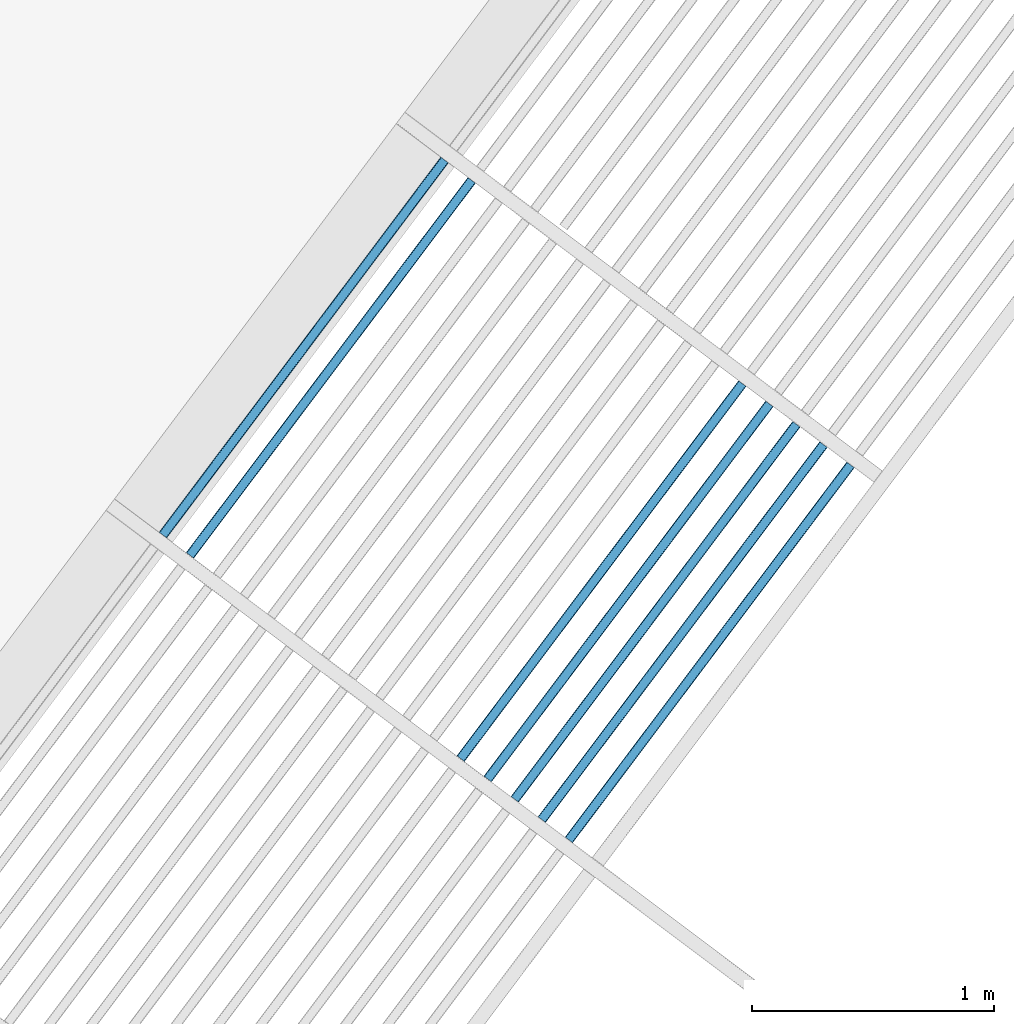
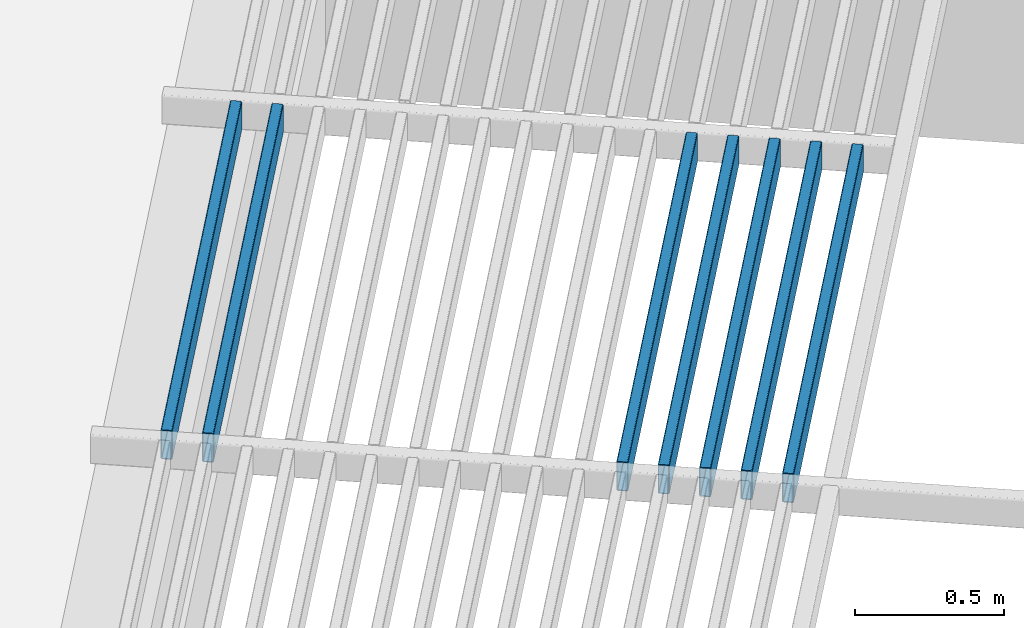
# One storey, part 78 of 95: 7 beams.
"""IFC2X3 building model written with IfcOpenShell, lengths in metres."""

import ifcopenshell
import ifcopenshell.guid

model = None  # the IFC model being written
_history = None  # IfcOwnerHistory: only IFC2X3 demands one
_inside = {}  # id of a spatial element -> (the spatial element, [elements in it])
_under = {}  # id of a project, library or spatial element -> (it, [spatial elements below it])
_declared = {}  # id of a project -> (the project, [libraries it declares])
_typed = {}  # id of a type object -> (the type object, [elements of that type])
_made_of = {}  # id of a material, layer set ... -> (it, [elements and type objects made of it])


def new_model(schema):
    """Start an empty IFC model of exactly this schema.

    Asked for "IFC4X3", IfcOpenShell would pick the latest addendum, in which some entities
    have other attributes; the version numbers below select the first issue.
    IFC2X3 requires an IfcOwnerHistory on every rooted entity: one is made here for all.
    """
    global model, _history
    if schema == "IFC4X3":
        model = ifcopenshell.file(schema_version=(4, 3, 0, 0))
    else:
        model = ifcopenshell.file(schema=schema)
    _inside.clear()
    _under.clear()
    _declared.clear()
    _typed.clear()
    _made_of.clear()
    _history = None
    if model.schema == "IFC2X3":
        org = make("IfcOrganization", Name="unknown")
        user = make(
            "IfcPersonAndOrganization",
            ThePerson=make("IfcPerson", FamilyName="unknown"),
            TheOrganization=org,
        )
        app = make(
            "IfcApplication",
            ApplicationDeveloper=org,
            Version="unknown",
            ApplicationFullName="unknown",
            ApplicationIdentifier="unknown",
        )
        _history = make(
            "IfcOwnerHistory",
            OwningUser=user,
            OwningApplication=app,
            ChangeAction="ADDED",
            CreationDate=0,
        )
    return model


def make(cls, **values):
    """One entity of the class cls with the attributes given. An attribute that is None is left unset."""
    return model.create_entity(
        cls, **{name: value for name, value in values.items() if value is not None}
    )


def entity(cls, *values):
    """Any entity or typed value of the class cls, its attributes in the order of the schema. None: left unset."""
    e = model.create_entity(cls)
    for i, value in enumerate(values):
        if value is not None:
            e[i] = value
    return e


def rooted(cls, **values):
    """An entity with a GlobalId (a new one), such as an element, a storey or a relation."""
    return make(cls, GlobalId=ifcopenshell.guid.new(), OwnerHistory=_history, **values)


def si_unit(unit_type, name, prefix=None):
    """IfcSIUnit, for example si_unit("LENGTHUNIT", "METRE", prefix="MILLI")."""
    return make("IfcSIUnit", UnitType=unit_type, Prefix=prefix, Name=name)


def converted_unit(unit_type, name, factor, base, dimensions=None, offset=None):
    """IfcConversionBasedUnit, such as the inch: factor (a typed value) times the base unit."""
    return make(
        "IfcConversionBasedUnit"
        if offset is None
        else "IfcConversionBasedUnitWithOffset",
        ConversionOffset=offset,
        Dimensions=None
        if dimensions is None
        else entity("IfcDimensionalExponents", *dimensions),
        UnitType=unit_type,
        Name=name,
        ConversionFactor=make(
            "IfcMeasureWithUnit", ValueComponent=factor, UnitComponent=base
        ),
    )


def derived_unit(unit_type, elements):
    """IfcDerivedUnit: a product of units, each with its exponent."""
    return make(
        "IfcDerivedUnit",
        Elements=[
            make("IfcDerivedUnitElement", Unit=unit, Exponent=power)
            for unit, power in elements
        ],
        UnitType=unit_type,
    )


def assignment(units):
    """IfcUnitAssignment: the units of a project."""
    return None if units is None else make("IfcUnitAssignment", Units=units)


def point(xyz):
    """IfcCartesianPoint."""
    return None if xyz is None else make("IfcCartesianPoint", Coordinates=xyz)


def direction(xyz):
    """IfcDirection."""
    return None if xyz is None else make("IfcDirection", DirectionRatios=xyz)


def frame(location, z_axis=None, x_axis=None):
    """IfcAxis2Placement3D, a coordinate frame: its origin and axes. An axis left out is left unset."""
    return make(
        "IfcAxis2Placement3D",
        Location=point(location),
        Axis=direction(z_axis),
        RefDirection=direction(x_axis),
    )


def frame_2d(location, x_axis=None):
    """IfcAxis2Placement2D, a coordinate frame in the plane: its origin and x axis."""
    return make(
        "IfcAxis2Placement2D", Location=point(location), RefDirection=direction(x_axis)
    )


def origin():
    """The frame at (0, 0, 0) with its axes left unset."""
    return frame((0.0, 0.0, 0.0))


def place(relative_to, where):
    """IfcLocalPlacement: puts the frame where relative to a parent placement (None: the world)."""
    return make(
        "IfcLocalPlacement", PlacementRelTo=relative_to, RelativePlacement=where
    )


def context(
    kind, dimensions, precision=None, world=None, true_north=None, identifier=None
):
    """IfcGeometricRepresentationContext, for example the 3D "Model" context."""
    return make(
        "IfcGeometricRepresentationContext",
        ContextIdentifier=identifier,
        ContextType=kind,
        CoordinateSpaceDimension=dimensions,
        Precision=precision,
        WorldCoordinateSystem=world,
        TrueNorth=true_north,
    )


def subcontext(parent, identifier, kind, view, scale=None):
    """IfcGeometricRepresentationSubContext, for example "Body" below "Model"."""
    return make(
        "IfcGeometricRepresentationSubContext",
        ContextIdentifier=identifier,
        ContextType=kind,
        ParentContext=parent,
        TargetScale=scale,
        TargetView=view,
    )


def project(units=None, contexts=None):
    """IfcProject with its units and contexts."""
    return rooted(
        "IfcProject",
        Name="project",
        RepresentationContexts=contexts,
        UnitsInContext=assignment(units),
    )


def spatial(cls, under=None, at=None, **own):
    """A site, building, storey or space (cls), placed at a placement, below another one or the project."""
    s = rooted(cls, ObjectPlacement=at, **own)
    if under is not None:
        _under.setdefault(under.id(), (under, []))[1].append(s)
    return s


def polyline(points):
    """IfcPolyline through the points."""
    return make("IfcPolyline", Points=[point(p) for p in points])


def circle_curve(where, radius):
    """IfcCircle in the frame where."""
    return make("IfcCircle", Position=where, Radius=radius)


def parameter(value):
    """IfcParameterValue: where a trimmed curve begins or ends, as a parameter of its basis curve."""
    return model.create_entity("IfcParameterValue", value)


def trimmed(basis, trim1, trim2, sense, master):
    """IfcTrimmedCurve: the piece of a basis curve between two trims."""
    return make(
        "IfcTrimmedCurve",
        BasisCurve=basis,
        Trim1=trim1,
        Trim2=trim2,
        SenseAgreement=sense,
        MasterRepresentation=master,
    )


def segment(curve, same_sense, transition):
    """IfcCompositeCurveSegment."""
    return make(
        "IfcCompositeCurveSegment",
        Transition=transition,
        SameSense=same_sense,
        ParentCurve=curve,
    )


def composite_curve(segments, self_intersect=None):
    """IfcCompositeCurve: segments joined end to end."""
    return make("IfcCompositeCurve", Segments=segments, SelfIntersect=self_intersect)


def outline(outer, holes=None, kind="AREA"):
    """IfcArbitraryClosedProfileDef: a profile drawn as a closed curve; with holes, ...WithVoids."""
    if holes is None:
        return make("IfcArbitraryClosedProfileDef", ProfileType=kind, OuterCurve=outer)
    return make(
        "IfcArbitraryProfileDefWithVoids",
        ProfileType=kind,
        OuterCurve=outer,
        InnerCurves=holes,
    )


def extrude(swept, where, along, depth):
    """IfcExtrudedAreaSolid: the profile swept, set in the frame where, extruded along a direction by depth."""
    return make(
        "IfcExtrudedAreaSolid",
        SweptArea=swept,
        Position=where,
        ExtrudedDirection=direction(along),
        Depth=depth,
    )


def shape(context_of_items, identifier, shape_type, items):
    """IfcShapeRepresentation: the items that make up one representation, for example the "Body"."""
    return make(
        "IfcShapeRepresentation",
        ContextOfItems=context_of_items,
        RepresentationIdentifier=identifier,
        RepresentationType=shape_type,
        Items=items,
    )


def material(Name=None, Category=None):
    """IfcMaterial."""
    return make("IfcMaterial", Name=Name, Category=Category)


def made_of(thing, what):
    """Note that an element or type object is made of a material, layer set ...; save() writes the relation."""
    if what is not None:
        _made_of.setdefault(what.id(), (what, []))[1].append(thing)
    return thing


def type_object(cls, material=None, **own):
    """A type object (cls), such as IfcWallType, which elements share."""
    return made_of(rooted(cls, **own), material)


def element(
    cls,
    number,
    at=None,
    inside=None,
    cuts=None,
    type_object=None,
    material=None,
    context=None,
    identifier="Body",
    shape_type=None,
    held_by="IfcProductDefinitionShape",
    body=None,
    shapes=None,
    **own,
):
    """One element of the class cls, such as IfcWall. Its Tag is "e" and its number.

    at: its placement. inside: the storey or other place that contains it. cuts: it is an
    opening in that element (IfcRelVoidsElement). A single representation is given by context,
    identifier, shape_type and body (its items); several are given by shapes. held_by: the class
    of the entity that holds the representations. save() writes the other relations.
    """
    e = rooted(cls, Tag="e%d" % number, ObjectPlacement=at, **own)
    if body is not None:
        shapes = [shape(context, identifier, shape_type, body)]
    if shapes is not None:
        e.Representation = make(held_by, Representations=shapes)
    if inside is not None:
        _inside.setdefault(inside.id(), (inside, []))[1].append(e)
    if cuts is not None:
        rooted(
            "IfcRelVoidsElement", RelatingBuildingElement=cuts, RelatedOpeningElement=e
        )
    if type_object is not None:
        _typed.setdefault(type_object.id(), (type_object, []))[1].append(e)
    return made_of(e, material)


def aggregate(whole, parts):
    """IfcRelAggregates: a whole, such as a stair, and the parts it consists of."""
    return rooted("IfcRelAggregates", RelatingObject=whole, RelatedObjects=parts)


def save(model, path):
    """Write the relations noted so far, then the file.

    IfcRelAggregates (storeys below a building ...), IfcRelContainedInSpatialStructure (elements
    in a storey), IfcRelDefinesByType, IfcRelAssociatesMaterial and IfcRelDeclares: one each for
    every whole, place, type object, material and project.
    """
    for whole, parts in _under.values():
        aggregate(whole, parts)
    for where, things in _inside.values():
        rooted(
            "IfcRelContainedInSpatialStructure",
            RelatedElements=things,
            RelatingStructure=where,
        )
    for kind, things in _typed.values():
        rooted("IfcRelDefinesByType", RelatedObjects=things, RelatingType=kind)
    for what, things in _made_of.values():
        rooted("IfcRelAssociatesMaterial", RelatedObjects=things, RelatingMaterial=what)
    for by, libraries in _declared.values():
        rooted("IfcRelDeclares", RelatingContext=by, RelatedDefinitions=libraries)
    model.write(path)


model = new_model("IFC2X3")

# Units and contexts
model_context = context("Model", 3, precision=1e-05, world=origin(), true_north=direction((6.123031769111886e-17, 1.0)))
body_context = subcontext(model_context, "Body", "Model", "MODEL_VIEW")
ifc_project = project(units=[si_unit("LENGTHUNIT", "METRE"), si_unit("AREAUNIT", "SQUARE_METRE"), si_unit("VOLUMEUNIT", "CUBIC_METRE"), converted_unit("PLANEANGLEUNIT", "DEGREE", entity("IfcRatioMeasure", 0.017453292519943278), si_unit("PLANEANGLEUNIT", "RADIAN"), dimensions=[0, 0, 0, 0, 0, 0, 0]), si_unit("MASSUNIT", "GRAM", prefix="KILO"), derived_unit("MASSDENSITYUNIT", [(si_unit("MASSUNIT", "GRAM", prefix="KILO"), 1), (si_unit("LENGTHUNIT", "METRE"), -3)]), derived_unit("IONCONCENTRATIONUNIT", [(si_unit("MASSUNIT", "GRAM", prefix="KILO"), 1), (si_unit("LENGTHUNIT", "METRE"), -3)]), derived_unit("MOMENTOFINERTIAUNIT", [(si_unit("LENGTHUNIT", "METRE"), 4)]), si_unit("TIMEUNIT", "SECOND"), si_unit("FREQUENCYUNIT", "HERTZ"), si_unit("THERMODYNAMICTEMPERATUREUNIT", "DEGREE_CELSIUS"), derived_unit("THERMALTRANSMITTANCEUNIT", [(si_unit("MASSUNIT", "GRAM", prefix="KILO"), 1), (si_unit("THERMODYNAMICTEMPERATUREUNIT", "KELVIN"), -1), (si_unit("TIMEUNIT", "SECOND"), -3)]), derived_unit("THERMALCONDUCTANCEUNIT", [(si_unit("MASSUNIT", "GRAM", prefix="KILO"), 1), (si_unit("THERMODYNAMICTEMPERATUREUNIT", "KELVIN"), -1), (si_unit("TIMEUNIT", "SECOND"), -3), (si_unit("LENGTHUNIT", "METRE"), 1)]), derived_unit("VOLUMETRICFLOWRATEUNIT", [(si_unit("LENGTHUNIT", "METRE"), 3), (si_unit("TIMEUNIT", "SECOND"), -1)]), derived_unit("MASSFLOWRATEUNIT", [(si_unit("MASSUNIT", "GRAM", prefix="KILO"), 1), (si_unit("TIMEUNIT", "SECOND"), -1)]), derived_unit("ROTATIONALFREQUENCYUNIT", [(si_unit("TIMEUNIT", "SECOND"), -1)]), si_unit("ELECTRICCURRENTUNIT", "AMPERE"), si_unit("ELECTRICVOLTAGEUNIT", "VOLT"), si_unit("POWERUNIT", "WATT"), si_unit("FORCEUNIT", "NEWTON", prefix="KILO"), si_unit("ILLUMINANCEUNIT", "LUX"), si_unit("LUMINOUSFLUXUNIT", "LUMEN"), si_unit("LUMINOUSINTENSITYUNIT", "CANDELA"), derived_unit("USERDEFINED", [(si_unit("MASSUNIT", "GRAM", prefix="KILO"), -1), (si_unit("LENGTHUNIT", "METRE"), -2), (si_unit("TIMEUNIT", "SECOND"), 3), (si_unit("LUMINOUSFLUXUNIT", "LUMEN"), 1)]), derived_unit("USERDEFINED", [(si_unit("MASSUNIT", "GRAM", prefix="KILO"), 1), (si_unit("TIMEUNIT", "SECOND"), -3), (si_unit("LENGTHUNIT", "METRE"), 3), (si_unit("ELECTRICCURRENTUNIT", "AMPERE"), -2)]), derived_unit("SOUNDPOWERUNIT", [(si_unit("MASSUNIT", "GRAM", prefix="KILO"), 1), (si_unit("TIMEUNIT", "SECOND"), -3), (si_unit("LENGTHUNIT", "METRE"), 2)]), derived_unit("SOUNDPRESSUREUNIT", [(si_unit("MASSUNIT", "GRAM", prefix="KILO"), 1), (si_unit("LENGTHUNIT", "METRE"), -1), (si_unit("TIMEUNIT", "SECOND"), -2)]), derived_unit("LINEARVELOCITYUNIT", [(si_unit("LENGTHUNIT", "METRE"), 1), (si_unit("TIMEUNIT", "SECOND"), -1)]), si_unit("PRESSUREUNIT", "PASCAL"), derived_unit("USERDEFINED", [(si_unit("MASSUNIT", "GRAM", prefix="KILO"), 1), (si_unit("LENGTHUNIT", "METRE"), -2), (si_unit("TIMEUNIT", "SECOND"), -2)]), derived_unit("LINEARFORCEUNIT", [(si_unit("MASSUNIT", "GRAM", prefix="KILO"), 1), (si_unit("TIMEUNIT", "SECOND"), -2)]), derived_unit("PLANARFORCEUNIT", [(si_unit("MASSUNIT", "GRAM", prefix="KILO"), 1), (si_unit("LENGTHUNIT", "METRE"), -1), (si_unit("TIMEUNIT", "SECOND"), -2)]), derived_unit("SPECIFICHEATCAPACITYUNIT", [(si_unit("THERMODYNAMICTEMPERATUREUNIT", "KELVIN"), -1), (si_unit("LENGTHUNIT", "METRE"), 2), (si_unit("TIMEUNIT", "SECOND"), -2)]), derived_unit("HEATINGVALUEUNIT", [(si_unit("LENGTHUNIT", "METRE"), 2), (si_unit("TIMEUNIT", "SECOND"), -2)]), derived_unit("VAPORPERMEABILITYUNIT", [(si_unit("LENGTHUNIT", "METRE"), -1), (si_unit("TIMEUNIT", "SECOND"), 1)]), derived_unit("DYNAMICVISCOSITYUNIT", [(si_unit("MASSUNIT", "GRAM", prefix="KILO"), 1), (si_unit("TIMEUNIT", "SECOND"), -1), (si_unit("LENGTHUNIT", "METRE"), -1)]), derived_unit("THERMALEXPANSIONCOEFFICIENTUNIT", [(si_unit("THERMODYNAMICTEMPERATUREUNIT", "KELVIN"), -1)]), derived_unit("MODULUSOFELASTICITYUNIT", [(si_unit("MASSUNIT", "GRAM", prefix="KILO"), 1), (si_unit("LENGTHUNIT", "METRE"), -1), (si_unit("TIMEUNIT", "SECOND"), -2)]), derived_unit("ISOTHERMALMOISTURECAPACITYUNIT", [(si_unit("LENGTHUNIT", "METRE"), 3), (si_unit("MASSUNIT", "GRAM", prefix="KILO"), -1)]), derived_unit("MOISTUREDIFFUSIVITYUNIT", [(si_unit("TIMEUNIT", "SECOND"), -1), (si_unit("LENGTHUNIT", "METRE"), 2)])], contexts=[model_context])

# Site, building, storey
site_placement = place(None, origin())
site = spatial("IfcSite", under=ifc_project, at=site_placement, Name="Default", CompositionType="ELEMENT")
building_placement = place(site_placement, frame((0.0, 0.0, 235.0), z_axis=(0.0, 0.0, 1.0), x_axis=(-0.7996477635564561, 0.6004693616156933, 0.0)))
building = spatial("IfcBuilding", under=site, at=building_placement, CompositionType="ELEMENT")
storey_placement = place(building_placement, frame((0.0, 0.0, 3.400000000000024)))
storey = spatial("IfcBuildingStorey", under=building, at=storey_placement, Name="PC- Coberta STR", CompositionType="ELEMENT", Elevation=3.400000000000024)

# Beams
ifc_material = material(Name="_Acer- STR")
beam_type = type_object("IfcBeamType", Name="STR- V- Acer- RHS- Rectangular- T1:120x40RHS -", PredefinedType="NOTDEFINED")
beam_1_placement = place(storey_placement, frame((53.773552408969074, -34.38519175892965, 0.4984047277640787), z_axis=(0.0, 0.0, 1.0), x_axis=(0.0, -1.0, 0.0)))
element("IfcBeam", 1, at=beam_1_placement, inside=storey, type_object=beam_type, material=ifc_material, Name="STR- V- Acer- RHS- Rectangular- T1:120x40RHS -", ObjectType="STR- V- Acer- RHS- Rectangular- T1:120x40RHS -", context=body_context, shape_type="SweptSolid", body=[
    extrude(outline(composite_curve([segment(trimmed(circle_curve(frame_2d((-0.01400000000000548, -0.053999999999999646), x_axis=(1.0, 0.0)), 0.006), [parameter(180.0000000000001)], [parameter(269.99999999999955)], True, "PARAMETER"), True, "CONTINUOUS"), segment(polyline([(-0.01400000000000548, -0.0599999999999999), (0.013999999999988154, -0.0599999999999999)]), True, "CONTINUOUS"), segment(trimmed(circle_curve(frame_2d((0.013999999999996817, -0.053999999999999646), x_axis=(1.0, 0.0)), 0.006), [parameter(269.99999999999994)], [parameter(1.0177774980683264e-13)], True, "PARAMETER"), True, "CONTINUOUS"), segment(polyline([(0.019999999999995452, -0.053999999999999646), (0.019999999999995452, 0.05400000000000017)]), True, "CONTINUOUS"), segment(trimmed(circle_curve(frame_2d((0.013999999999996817, 0.05400000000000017), x_axis=(1.0, 0.0)), 0.006), [parameter(359.9999999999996)], [parameter(89.99999999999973)], True, "PARAMETER"), True, "CONTINUOUS"), segment(polyline([(0.013999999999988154, 0.059999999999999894), (-0.01400000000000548, 0.059999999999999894)]), True, "CONTINUOUS"), segment(trimmed(circle_curve(frame_2d((-0.01400000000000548, 0.05400000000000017), x_axis=(1.0, 0.0)), 0.006), [parameter(90.00000000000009)], [parameter(180.00000000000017)], True, "PARAMETER"), True, "CONTINUOUS"), segment(polyline([(-0.02000000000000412, 0.05400000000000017), (-0.02000000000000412, -0.05400000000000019)]), True, "CONTINUOUS")], self_intersect=False), holes=[composite_curve([segment(polyline([(0.013999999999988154, -0.05700000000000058), (-0.01400000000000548, -0.05700000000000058)]), True, "CONTINUOUS"), segment(trimmed(circle_curve(frame_2d((-0.01400000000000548, -0.05400000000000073), x_axis=(1.0, 0.0)), 0.003), [parameter(179.99999999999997)], [parameter(269.9999999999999)], True, "PARAMETER"), False, "CONTINUOUS"), segment(polyline([(-0.017000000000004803, -0.05400000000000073), (-0.017000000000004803, 0.05399999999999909)]), True, "CONTINUOUS"), segment(trimmed(circle_curve(frame_2d((-0.01400000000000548, 0.05399999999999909), x_axis=(1.0, 0.0)), 0.003), [parameter(90.00000000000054)], [parameter(180.0000000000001)], True, "PARAMETER"), False, "CONTINUOUS"), segment(polyline([(-0.01400000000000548, 0.056999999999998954), (0.013999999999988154, 0.056999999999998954)]), True, "CONTINUOUS"), segment(trimmed(circle_curve(frame_2d((0.013999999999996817, 0.05399999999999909), x_axis=(1.0, 0.0)), 0.003), [parameter(0.0)], [parameter(90.00000000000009)], True, "PARAMETER"), False, "CONTINUOUS"), segment(polyline([(0.016999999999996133, 0.05399999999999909), (0.016999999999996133, -0.05400000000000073)]), True, "CONTINUOUS"), segment(trimmed(circle_curve(frame_2d((0.013999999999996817, -0.05400000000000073), x_axis=(1.0, 0.0)), 0.003), [parameter(270.00000000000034)], [parameter(3.053332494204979e-13)], True, "PARAMETER"), False, "CONTINUOUS")], self_intersect=False)]), frame((-1.9399999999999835, 0.02159527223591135, 0.06159527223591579), z_axis=(1.0, 0.0, 0.0), x_axis=(0.0, -1.0, 0.0)), (0.0, 0.0, 1.0), 1.9399999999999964),
])
beam_2_placement = place(storey_placement, frame((53.63355240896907, -34.38519175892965, 0.4984047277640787), z_axis=(0.0, 0.0, 1.0), x_axis=(0.0, -1.0, 0.0)))
element("IfcBeam", 2, at=beam_2_placement, inside=storey, type_object=beam_type, material=ifc_material, Name="STR- V- Acer- RHS- Rectangular- T1:120x40RHS -", ObjectType="STR- V- Acer- RHS- Rectangular- T1:120x40RHS -", context=body_context, shape_type="SweptSolid", body=[
    extrude(outline(composite_curve([segment(trimmed(circle_curve(frame_2d((-0.01400000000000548, -0.053999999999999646), x_axis=(1.0, 0.0)), 0.006), [parameter(180.0000000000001)], [parameter(269.99999999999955)], True, "PARAMETER"), True, "CONTINUOUS"), segment(polyline([(-0.01400000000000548, -0.0599999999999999), (0.013999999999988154, -0.0599999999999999)]), True, "CONTINUOUS"), segment(trimmed(circle_curve(frame_2d((0.013999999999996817, -0.053999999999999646), x_axis=(1.0, 0.0)), 0.006), [parameter(269.99999999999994)], [parameter(1.0177774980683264e-13)], True, "PARAMETER"), True, "CONTINUOUS"), segment(polyline([(0.019999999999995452, -0.053999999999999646), (0.019999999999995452, 0.05400000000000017)]), True, "CONTINUOUS"), segment(trimmed(circle_curve(frame_2d((0.013999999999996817, 0.05400000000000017), x_axis=(1.0, 0.0)), 0.006), [parameter(359.9999999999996)], [parameter(89.99999999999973)], True, "PARAMETER"), True, "CONTINUOUS"), segment(polyline([(0.013999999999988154, 0.059999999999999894), (-0.01400000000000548, 0.059999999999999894)]), True, "CONTINUOUS"), segment(trimmed(circle_curve(frame_2d((-0.01400000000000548, 0.05400000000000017), x_axis=(1.0, 0.0)), 0.006), [parameter(90.00000000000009)], [parameter(180.00000000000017)], True, "PARAMETER"), True, "CONTINUOUS"), segment(polyline([(-0.02000000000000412, 0.05400000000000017), (-0.02000000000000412, -0.05400000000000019)]), True, "CONTINUOUS")], self_intersect=False), holes=[composite_curve([segment(polyline([(0.013999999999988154, -0.05700000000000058), (-0.01400000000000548, -0.05700000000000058)]), True, "CONTINUOUS"), segment(trimmed(circle_curve(frame_2d((-0.01400000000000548, -0.05400000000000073), x_axis=(1.0, 0.0)), 0.003), [parameter(179.99999999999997)], [parameter(269.9999999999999)], True, "PARAMETER"), False, "CONTINUOUS"), segment(polyline([(-0.017000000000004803, -0.05400000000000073), (-0.017000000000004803, 0.05399999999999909)]), True, "CONTINUOUS"), segment(trimmed(circle_curve(frame_2d((-0.01400000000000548, 0.05399999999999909), x_axis=(1.0, 0.0)), 0.003), [parameter(90.00000000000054)], [parameter(180.0000000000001)], True, "PARAMETER"), False, "CONTINUOUS"), segment(polyline([(-0.01400000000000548, 0.056999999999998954), (0.013999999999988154, 0.056999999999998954)]), True, "CONTINUOUS"), segment(trimmed(circle_curve(frame_2d((0.013999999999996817, 0.05399999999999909), x_axis=(1.0, 0.0)), 0.003), [parameter(0.0)], [parameter(90.00000000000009)], True, "PARAMETER"), False, "CONTINUOUS"), segment(polyline([(0.016999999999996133, 0.05399999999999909), (0.016999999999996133, -0.05400000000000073)]), True, "CONTINUOUS"), segment(trimmed(circle_curve(frame_2d((0.013999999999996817, -0.05400000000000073), x_axis=(1.0, 0.0)), 0.003), [parameter(270.00000000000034)], [parameter(3.053332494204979e-13)], True, "PARAMETER"), False, "CONTINUOUS")], self_intersect=False)]), frame((-1.9399999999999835, 0.02159527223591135, 0.06159527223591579), z_axis=(1.0, 0.0, 0.0), x_axis=(0.0, -1.0, 0.0)), (0.0, 0.0, 1.0), 1.9399999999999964),
])
beam_3_placement = place(storey_placement, frame((52.233552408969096, -34.38519175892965, 0.4984047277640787), z_axis=(0.0, 0.0, 1.0), x_axis=(0.0, -1.0, 0.0)))
element("IfcBeam", 3, at=beam_3_placement, inside=storey, type_object=beam_type, material=ifc_material, Name="STR- V- Acer- RHS- Rectangular- T1:120x40RHS -", ObjectType="STR- V- Acer- RHS- Rectangular- T1:120x40RHS -", context=body_context, shape_type="SweptSolid", body=[
    extrude(outline(composite_curve([segment(trimmed(circle_curve(frame_2d((-0.01399999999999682, -0.053999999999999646), x_axis=(1.0, 0.0)), 0.006), [parameter(180.0000000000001)], [parameter(269.99999999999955)], True, "PARAMETER"), True, "CONTINUOUS"), segment(polyline([(-0.01399999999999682, -0.0599999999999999), (0.013999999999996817, -0.0599999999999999)]), True, "CONTINUOUS"), segment(trimmed(circle_curve(frame_2d((0.014000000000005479, -0.053999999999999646), x_axis=(1.0, 0.0)), 0.006), [parameter(269.99999999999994)], [parameter(1.0177774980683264e-13)], True, "PARAMETER"), True, "CONTINUOUS"), segment(polyline([(0.020000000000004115, -0.053999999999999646), (0.020000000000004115, 0.05400000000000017)]), True, "CONTINUOUS"), segment(trimmed(circle_curve(frame_2d((0.014000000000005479, 0.05400000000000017), x_axis=(1.0, 0.0)), 0.006), [parameter(359.9999999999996)], [parameter(89.99999999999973)], True, "PARAMETER"), True, "CONTINUOUS"), segment(polyline([(0.013999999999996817, 0.059999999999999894), (-0.01399999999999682, 0.059999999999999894)]), True, "CONTINUOUS"), segment(trimmed(circle_curve(frame_2d((-0.01399999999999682, 0.05400000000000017), x_axis=(1.0, 0.0)), 0.006), [parameter(90.00000000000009)], [parameter(180.00000000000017)], True, "PARAMETER"), True, "CONTINUOUS"), segment(polyline([(-0.019999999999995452, 0.05400000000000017), (-0.019999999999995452, -0.05400000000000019)]), True, "CONTINUOUS")], self_intersect=False), holes=[composite_curve([segment(polyline([(0.013999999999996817, -0.05700000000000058), (-0.01399999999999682, -0.05700000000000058)]), True, "CONTINUOUS"), segment(trimmed(circle_curve(frame_2d((-0.01399999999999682, -0.05400000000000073), x_axis=(1.0, 0.0)), 0.003), [parameter(179.99999999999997)], [parameter(269.9999999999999)], True, "PARAMETER"), False, "CONTINUOUS"), segment(polyline([(-0.016999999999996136, -0.05400000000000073), (-0.016999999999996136, 0.05399999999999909)]), True, "CONTINUOUS"), segment(trimmed(circle_curve(frame_2d((-0.01399999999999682, 0.05399999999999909), x_axis=(1.0, 0.0)), 0.003), [parameter(90.00000000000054)], [parameter(180.0000000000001)], True, "PARAMETER"), False, "CONTINUOUS"), segment(polyline([(-0.01399999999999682, 0.056999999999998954), (0.013999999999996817, 0.056999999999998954)]), True, "CONTINUOUS"), segment(trimmed(circle_curve(frame_2d((0.014000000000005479, 0.05399999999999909), x_axis=(1.0, 0.0)), 0.003), [parameter(0.0)], [parameter(90.00000000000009)], True, "PARAMETER"), False, "CONTINUOUS"), segment(polyline([(0.017000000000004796, 0.05399999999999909), (0.017000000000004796, -0.05400000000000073)]), True, "CONTINUOUS"), segment(trimmed(circle_curve(frame_2d((0.014000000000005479, -0.05400000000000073), x_axis=(1.0, 0.0)), 0.003), [parameter(270.00000000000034)], [parameter(3.053332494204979e-13)], True, "PARAMETER"), False, "CONTINUOUS")], self_intersect=False)]), frame((-1.9399999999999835, 0.02159527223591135, 0.06159527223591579), z_axis=(1.0, 0.0, 0.0), x_axis=(0.0, -1.0, 0.0)), (0.0, 0.0, 1.0), 1.9399999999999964),
])
beam_4_placement = place(storey_placement, frame((52.09355240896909, -34.38519175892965, 0.4984047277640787), z_axis=(0.0, 0.0, 1.0), x_axis=(0.0, -1.0, 0.0)))
element("IfcBeam", 4, at=beam_4_placement, inside=storey, type_object=beam_type, material=ifc_material, Name="STR- V- Acer- RHS- Rectangular- T1:120x40RHS -", ObjectType="STR- V- Acer- RHS- Rectangular- T1:120x40RHS -", context=body_context, shape_type="SweptSolid", body=[
    extrude(outline(composite_curve([segment(trimmed(circle_curve(frame_2d((-0.013999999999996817, -0.053999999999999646), x_axis=(1.0, 0.0)), 0.006), [parameter(180.0000000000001)], [parameter(269.99999999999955)], True, "PARAMETER"), True, "CONTINUOUS"), segment(polyline([(-0.013999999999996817, -0.0599999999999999), (0.013999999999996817, -0.0599999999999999)]), True, "CONTINUOUS"), segment(trimmed(circle_curve(frame_2d((0.01400000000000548, -0.053999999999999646), x_axis=(1.0, 0.0)), 0.006), [parameter(269.99999999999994)], [parameter(1.0177774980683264e-13)], True, "PARAMETER"), True, "CONTINUOUS"), segment(polyline([(0.020000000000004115, -0.053999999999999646), (0.020000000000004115, 0.05400000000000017)]), True, "CONTINUOUS"), segment(trimmed(circle_curve(frame_2d((0.01400000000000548, 0.05400000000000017), x_axis=(1.0, 0.0)), 0.006), [parameter(359.9999999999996)], [parameter(89.99999999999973)], True, "PARAMETER"), True, "CONTINUOUS"), segment(polyline([(0.013999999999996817, 0.059999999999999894), (-0.013999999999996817, 0.059999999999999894)]), True, "CONTINUOUS"), segment(trimmed(circle_curve(frame_2d((-0.013999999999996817, 0.05400000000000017), x_axis=(1.0, 0.0)), 0.006), [parameter(90.00000000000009)], [parameter(180.00000000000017)], True, "PARAMETER"), True, "CONTINUOUS"), segment(polyline([(-0.019999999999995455, 0.05400000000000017), (-0.019999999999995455, -0.05400000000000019)]), True, "CONTINUOUS")], self_intersect=False), holes=[composite_curve([segment(polyline([(0.013999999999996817, -0.05700000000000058), (-0.013999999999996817, -0.05700000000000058)]), True, "CONTINUOUS"), segment(trimmed(circle_curve(frame_2d((-0.013999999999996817, -0.05400000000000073), x_axis=(1.0, 0.0)), 0.003), [parameter(179.99999999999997)], [parameter(269.9999999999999)], True, "PARAMETER"), False, "CONTINUOUS"), segment(polyline([(-0.01699999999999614, -0.05400000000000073), (-0.01699999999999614, 0.05399999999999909)]), True, "CONTINUOUS"), segment(trimmed(circle_curve(frame_2d((-0.013999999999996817, 0.05399999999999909), x_axis=(1.0, 0.0)), 0.003), [parameter(90.00000000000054)], [parameter(180.0000000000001)], True, "PARAMETER"), False, "CONTINUOUS"), segment(polyline([(-0.013999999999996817, 0.056999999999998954), (0.013999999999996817, 0.056999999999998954)]), True, "CONTINUOUS"), segment(trimmed(circle_curve(frame_2d((0.01400000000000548, 0.05399999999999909), x_axis=(1.0, 0.0)), 0.003), [parameter(0.0)], [parameter(90.00000000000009)], True, "PARAMETER"), False, "CONTINUOUS"), segment(polyline([(0.017000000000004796, 0.05399999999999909), (0.017000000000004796, -0.05400000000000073)]), True, "CONTINUOUS"), segment(trimmed(circle_curve(frame_2d((0.01400000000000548, -0.05400000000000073), x_axis=(1.0, 0.0)), 0.003), [parameter(270.00000000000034)], [parameter(3.053332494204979e-13)], True, "PARAMETER"), False, "CONTINUOUS")], self_intersect=False)]), frame((-1.9399999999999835, 0.021595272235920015, 0.06159527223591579), z_axis=(1.0, 0.0, 0.0), x_axis=(0.0, -1.0, 0.0)), (0.0, 0.0, 1.0), 1.9399999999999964),
])
beam_5_placement = place(storey_placement, frame((51.95355240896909, -34.38519175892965, 0.4984047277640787), z_axis=(0.0, 0.0, 1.0), x_axis=(0.0, -1.0, 0.0)))
element("IfcBeam", 5, at=beam_5_placement, inside=storey, type_object=beam_type, material=ifc_material, Name="STR- V- Acer- RHS- Rectangular- T1:120x40RHS -", ObjectType="STR- V- Acer- RHS- Rectangular- T1:120x40RHS -", context=body_context, shape_type="SweptSolid", body=[
    extrude(outline(composite_curve([segment(trimmed(circle_curve(frame_2d((-0.013999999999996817, -0.053999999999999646), x_axis=(1.0, 0.0)), 0.006), [parameter(180.0000000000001)], [parameter(269.99999999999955)], True, "PARAMETER"), True, "CONTINUOUS"), segment(polyline([(-0.013999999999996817, -0.0599999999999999), (0.013999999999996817, -0.0599999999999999)]), True, "CONTINUOUS"), segment(trimmed(circle_curve(frame_2d((0.01400000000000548, -0.053999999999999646), x_axis=(1.0, 0.0)), 0.006), [parameter(269.99999999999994)], [parameter(1.0177774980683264e-13)], True, "PARAMETER"), True, "CONTINUOUS"), segment(polyline([(0.020000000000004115, -0.053999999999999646), (0.020000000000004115, 0.05400000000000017)]), True, "CONTINUOUS"), segment(trimmed(circle_curve(frame_2d((0.01400000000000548, 0.05400000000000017), x_axis=(1.0, 0.0)), 0.006), [parameter(359.9999999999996)], [parameter(89.99999999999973)], True, "PARAMETER"), True, "CONTINUOUS"), segment(polyline([(0.013999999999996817, 0.059999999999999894), (-0.013999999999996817, 0.059999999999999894)]), True, "CONTINUOUS"), segment(trimmed(circle_curve(frame_2d((-0.013999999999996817, 0.05400000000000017), x_axis=(1.0, 0.0)), 0.006), [parameter(90.00000000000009)], [parameter(180.00000000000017)], True, "PARAMETER"), True, "CONTINUOUS"), segment(polyline([(-0.019999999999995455, 0.05400000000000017), (-0.019999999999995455, -0.05400000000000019)]), True, "CONTINUOUS")], self_intersect=False), holes=[composite_curve([segment(polyline([(0.013999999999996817, -0.05700000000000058), (-0.013999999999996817, -0.05700000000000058)]), True, "CONTINUOUS"), segment(trimmed(circle_curve(frame_2d((-0.013999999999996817, -0.05400000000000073), x_axis=(1.0, 0.0)), 0.003), [parameter(179.99999999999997)], [parameter(269.9999999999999)], True, "PARAMETER"), False, "CONTINUOUS"), segment(polyline([(-0.01699999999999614, -0.05400000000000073), (-0.01699999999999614, 0.05399999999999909)]), True, "CONTINUOUS"), segment(trimmed(circle_curve(frame_2d((-0.013999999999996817, 0.05399999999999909), x_axis=(1.0, 0.0)), 0.003), [parameter(90.00000000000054)], [parameter(180.0000000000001)], True, "PARAMETER"), False, "CONTINUOUS"), segment(polyline([(-0.013999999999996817, 0.056999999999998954), (0.013999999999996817, 0.056999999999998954)]), True, "CONTINUOUS"), segment(trimmed(circle_curve(frame_2d((0.01400000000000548, 0.05399999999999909), x_axis=(1.0, 0.0)), 0.003), [parameter(0.0)], [parameter(90.00000000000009)], True, "PARAMETER"), False, "CONTINUOUS"), segment(polyline([(0.017000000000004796, 0.05399999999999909), (0.017000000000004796, -0.05400000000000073)]), True, "CONTINUOUS"), segment(trimmed(circle_curve(frame_2d((0.01400000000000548, -0.05400000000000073), x_axis=(1.0, 0.0)), 0.003), [parameter(270.00000000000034)], [parameter(3.053332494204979e-13)], True, "PARAMETER"), False, "CONTINUOUS")], self_intersect=False)]), frame((-1.9399999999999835, 0.021595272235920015, 0.06159527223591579), z_axis=(1.0, 0.0, 0.0), x_axis=(0.0, -1.0, 0.0)), (0.0, 0.0, 1.0), 1.9399999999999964),
])
beam_6_placement = place(storey_placement, frame((51.81355240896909, -34.38519175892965, 0.4984047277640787), z_axis=(0.0, 0.0, 1.0), x_axis=(0.0, -1.0, 0.0)))
element("IfcBeam", 6, at=beam_6_placement, inside=storey, type_object=beam_type, material=ifc_material, Name="STR- V- Acer- RHS- Rectangular- T1:120x40RHS -", ObjectType="STR- V- Acer- RHS- Rectangular- T1:120x40RHS -", context=body_context, shape_type="SweptSolid", body=[
    extrude(outline(composite_curve([segment(trimmed(circle_curve(frame_2d((-0.01400000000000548, -0.053999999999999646), x_axis=(1.0, 0.0)), 0.006), [parameter(180.0000000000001)], [parameter(269.99999999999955)], True, "PARAMETER"), True, "CONTINUOUS"), segment(polyline([(-0.01400000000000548, -0.0599999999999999), (0.013999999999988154, -0.0599999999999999)]), True, "CONTINUOUS"), segment(trimmed(circle_curve(frame_2d((0.013999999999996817, -0.053999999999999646), x_axis=(1.0, 0.0)), 0.006), [parameter(269.99999999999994)], [parameter(1.0177774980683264e-13)], True, "PARAMETER"), True, "CONTINUOUS"), segment(polyline([(0.019999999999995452, -0.053999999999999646), (0.019999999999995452, 0.05400000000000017)]), True, "CONTINUOUS"), segment(trimmed(circle_curve(frame_2d((0.013999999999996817, 0.05400000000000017), x_axis=(1.0, 0.0)), 0.006), [parameter(359.9999999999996)], [parameter(89.99999999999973)], True, "PARAMETER"), True, "CONTINUOUS"), segment(polyline([(0.013999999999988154, 0.059999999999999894), (-0.01400000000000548, 0.059999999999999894)]), True, "CONTINUOUS"), segment(trimmed(circle_curve(frame_2d((-0.01400000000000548, 0.05400000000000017), x_axis=(1.0, 0.0)), 0.006), [parameter(90.00000000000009)], [parameter(180.00000000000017)], True, "PARAMETER"), True, "CONTINUOUS"), segment(polyline([(-0.02000000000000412, 0.05400000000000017), (-0.02000000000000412, -0.05400000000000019)]), True, "CONTINUOUS")], self_intersect=False), holes=[composite_curve([segment(polyline([(0.013999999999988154, -0.05700000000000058), (-0.01400000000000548, -0.05700000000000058)]), True, "CONTINUOUS"), segment(trimmed(circle_curve(frame_2d((-0.01400000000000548, -0.05400000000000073), x_axis=(1.0, 0.0)), 0.003), [parameter(179.99999999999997)], [parameter(269.9999999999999)], True, "PARAMETER"), False, "CONTINUOUS"), segment(polyline([(-0.017000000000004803, -0.05400000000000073), (-0.017000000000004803, 0.05399999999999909)]), True, "CONTINUOUS"), segment(trimmed(circle_curve(frame_2d((-0.01400000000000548, 0.05399999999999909), x_axis=(1.0, 0.0)), 0.003), [parameter(90.00000000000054)], [parameter(180.0000000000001)], True, "PARAMETER"), False, "CONTINUOUS"), segment(polyline([(-0.01400000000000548, 0.056999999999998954), (0.013999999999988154, 0.056999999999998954)]), True, "CONTINUOUS"), segment(trimmed(circle_curve(frame_2d((0.013999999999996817, 0.05399999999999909), x_axis=(1.0, 0.0)), 0.003), [parameter(0.0)], [parameter(90.00000000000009)], True, "PARAMETER"), False, "CONTINUOUS"), segment(polyline([(0.016999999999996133, 0.05399999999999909), (0.016999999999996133, -0.05400000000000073)]), True, "CONTINUOUS"), segment(trimmed(circle_curve(frame_2d((0.013999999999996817, -0.05400000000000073), x_axis=(1.0, 0.0)), 0.003), [parameter(270.00000000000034)], [parameter(3.053332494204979e-13)], True, "PARAMETER"), False, "CONTINUOUS")], self_intersect=False)]), frame((-1.9399999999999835, 0.02159527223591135, 0.06159527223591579), z_axis=(1.0, 0.0, 0.0), x_axis=(0.0, -1.0, 0.0)), (0.0, 0.0, 1.0), 1.9399999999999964),
])
beam_7_placement = place(storey_placement, frame((51.6735524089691, -34.38519175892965, 0.4984047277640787), z_axis=(0.0, 0.0, 1.0), x_axis=(0.0, -1.0, 0.0)))
element("IfcBeam", 7, at=beam_7_placement, inside=storey, type_object=beam_type, material=ifc_material, Name="STR- V- Acer- RHS- Rectangular- T1:120x40RHS -", ObjectType="STR- V- Acer- RHS- Rectangular- T1:120x40RHS -", context=body_context, shape_type="SweptSolid", body=[
    extrude(outline(composite_curve([segment(trimmed(circle_curve(frame_2d((-0.01400000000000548, -0.053999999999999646), x_axis=(1.0, 0.0)), 0.006), [parameter(180.0000000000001)], [parameter(269.99999999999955)], True, "PARAMETER"), True, "CONTINUOUS"), segment(polyline([(-0.01400000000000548, -0.0599999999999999), (0.013999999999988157, -0.0599999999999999)]), True, "CONTINUOUS"), segment(trimmed(circle_curve(frame_2d((0.013999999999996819, -0.053999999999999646), x_axis=(1.0, 0.0)), 0.006), [parameter(269.99999999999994)], [parameter(1.0177774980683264e-13)], True, "PARAMETER"), True, "CONTINUOUS"), segment(polyline([(0.019999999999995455, -0.053999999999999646), (0.019999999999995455, 0.05400000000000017)]), True, "CONTINUOUS"), segment(trimmed(circle_curve(frame_2d((0.013999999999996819, 0.05400000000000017), x_axis=(1.0, 0.0)), 0.006), [parameter(359.9999999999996)], [parameter(89.99999999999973)], True, "PARAMETER"), True, "CONTINUOUS"), segment(polyline([(0.013999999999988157, 0.059999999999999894), (-0.01400000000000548, 0.059999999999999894)]), True, "CONTINUOUS"), segment(trimmed(circle_curve(frame_2d((-0.01400000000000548, 0.05400000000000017), x_axis=(1.0, 0.0)), 0.006), [parameter(90.00000000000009)], [parameter(180.00000000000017)], True, "PARAMETER"), True, "CONTINUOUS"), segment(polyline([(-0.02000000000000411, 0.05400000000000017), (-0.02000000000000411, -0.05400000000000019)]), True, "CONTINUOUS")], self_intersect=False), holes=[composite_curve([segment(polyline([(0.013999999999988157, -0.05700000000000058), (-0.01400000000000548, -0.05700000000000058)]), True, "CONTINUOUS"), segment(trimmed(circle_curve(frame_2d((-0.01400000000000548, -0.05400000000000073), x_axis=(1.0, 0.0)), 0.003), [parameter(179.99999999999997)], [parameter(269.9999999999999)], True, "PARAMETER"), False, "CONTINUOUS"), segment(polyline([(-0.017000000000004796, -0.05400000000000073), (-0.017000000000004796, 0.05399999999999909)]), True, "CONTINUOUS"), segment(trimmed(circle_curve(frame_2d((-0.01400000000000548, 0.05399999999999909), x_axis=(1.0, 0.0)), 0.003), [parameter(90.00000000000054)], [parameter(180.0000000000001)], True, "PARAMETER"), False, "CONTINUOUS"), segment(polyline([(-0.01400000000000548, 0.056999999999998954), (0.013999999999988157, 0.056999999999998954)]), True, "CONTINUOUS"), segment(trimmed(circle_curve(frame_2d((0.013999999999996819, 0.05399999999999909), x_axis=(1.0, 0.0)), 0.003), [parameter(0.0)], [parameter(90.00000000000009)], True, "PARAMETER"), False, "CONTINUOUS"), segment(polyline([(0.016999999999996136, 0.05399999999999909), (0.016999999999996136, -0.05400000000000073)]), True, "CONTINUOUS"), segment(trimmed(circle_curve(frame_2d((0.013999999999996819, -0.05400000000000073), x_axis=(1.0, 0.0)), 0.003), [parameter(270.00000000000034)], [parameter(3.053332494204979e-13)], True, "PARAMETER"), False, "CONTINUOUS")], self_intersect=False)]), frame((-1.9399999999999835, 0.021595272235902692, 0.06159527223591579), z_axis=(1.0, 0.0, 0.0), x_axis=(0.0, -1.0, 0.0)), (0.0, 0.0, 1.0), 1.9399999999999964),
])

save(model, "model.ifc")
